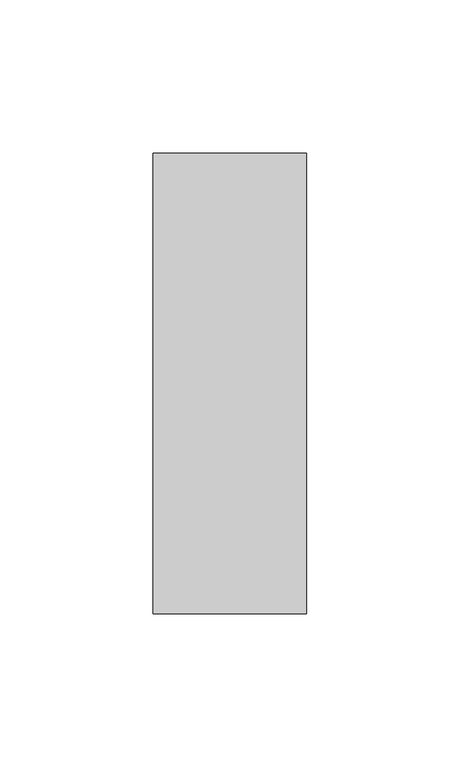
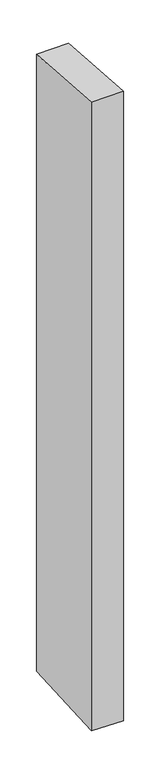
"""IFC4 building model written with IfcOpenShell, lengths in millimetres: member geometry, Прямоугольный импост : 50 x 150 мм."""

from ifc_helpers import new_model, si_unit, origin, place, context, project, spatial, faceted_brep, source, transform, mapped, element, save


def member_9e126006(model_context):
    return source(origin(), model_context, "Body", "Brep", [
        faceted_brep([(-25.0, 75.0, -5.7742183), (25.0, 75.0, -4.9501131), (25.0, 75.0, -1031.7998211), (-25.0, 75.0, -1030.7984517), (-25.0, -75.0, 4.9501131), (-25.0, -75.0, -1038.9512555), (25.0, -75.0, 5.7742183), (25.0, -75.0, -1039.9526249)], [[[0, 1, 2, 3]], [[4, 0, 3, 5]], [[6, 4, 5, 7]], [[1, 6, 7, 2]], [[1, 0, 4, 6]], [[2, 7, 5, 3]]]),
    ])


if __name__ == "__main__":
    model = new_model("IFC4")
    model_context = context("Model", 3, world=origin())
    ifc_project = project(units=[si_unit("LENGTHUNIT", "METRE", prefix="MILLI")], contexts=[model_context])
    site = spatial("IfcSite", under=ifc_project)
    building = spatial("IfcBuilding", under=site)
    placement = place(None, origin())
    member_shape = member_9e126006(model_context)
    element("IfcMember", 1, ObjectType="Прямоугольный импост : 50 x 150 мм", at=placement, inside=building, context=model_context, shape_type="MappedRepresentation", body=[
        mapped(member_shape, transform((0.0, 0.0, 0.0), x_axis=(1.0, 0.0, 0.0), y_axis=(0.0, 1.0, 0.0), z_axis=(0.0, 0.0, 1.0))),
    ])
    save(model, "model.ifc")
